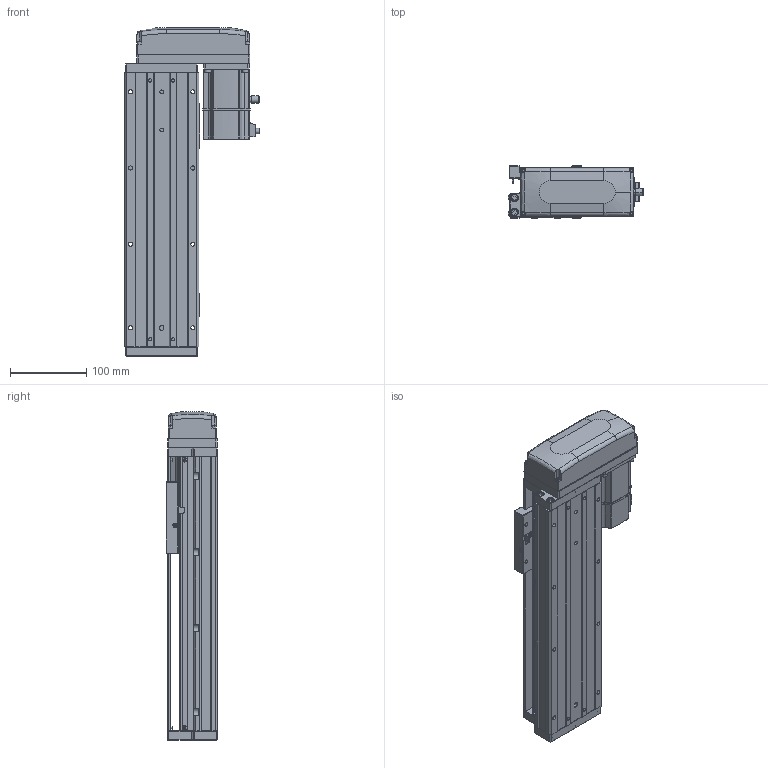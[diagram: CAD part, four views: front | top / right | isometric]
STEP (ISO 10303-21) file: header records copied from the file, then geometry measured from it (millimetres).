
FILE_DESCRIPTION (( 'STEP AP203' ), '1' );
FILE_NAME ('KTHA100-200-BL-M20-C4L.step', '2022-04-26T01:47:59', ( '微软用户' ), ( '微软中国' ), 'SwSTEP 2.0', 'SolidWorks 2020', '' );
FILE_SCHEMA (( 'CONFIG_CONTROL_DESIGN' ));
Length unit declared in the file: millimetre
Products named in the file (17): KTHA100-004; _X2_4E0983F1_X0_200W_1; CTHA60-021; KTHA100-005; CTHA86-015-1_CTHA86-015-2; GBT77-2000 M3×3; GB¨uT 70.2-M3¡Á5_M3¡Á6; CTHA86-033; GBT 70.1-M3℅6; EE_SX911P_R; KTHA100-200-BL-M20-C4L; GBT70.1 M5℅16; CTHA60-017; KTHA100-001_360; CTHA60-016; KTHA100-002; GBT 70.3-M3℅6
Assembly tree (57 placements, depth 2):
  KTHA100-200-BL-M20-C4L
    KTHA100-001_360
    KTHA100-002
    KTHA100-004
    KTHA100-005
    GB¨uT 70.2-M3¡Á5_M3¡Á6  x6
    EE_SX911P_R  x3
    CTHA60-017  x3
    CTHA60-021  x2
    GBT77-2000 M3×3  x6
    GBT 70.1-M3℅6  x10
    GBT70.1 M5℅16  x14
    CTHA60-016  x2
    GBT 70.3-M3℅6  x4
    _X2_4E0983F1_X0_200W_1
    CTHA86-015-1_CTHA86-015-2
    CTHA86-033
Bounding box: 177.7 x 68 x 431 mm (x, y, z)
Volume: 2269463.6 mm3; surface area: 379602.3 mm2
Topology: 60 solids, 60 shells, 2357 faces, 5609 edges, 3472 vertices
Faces by surface type: plane 1196, cylinder 653, cone 301, torus 116, bspline 75, sphere 16
Entity records: 39364 total; most frequent: CARTESIAN_POINT 8000, DIRECTION 6052, ORIENTED_EDGE 5830, EDGE_CURVE 2915, AXIS2_PLACEMENT_3D 2132, VERTEX_POINT 1832, LINE 1788, VECTOR 1788
